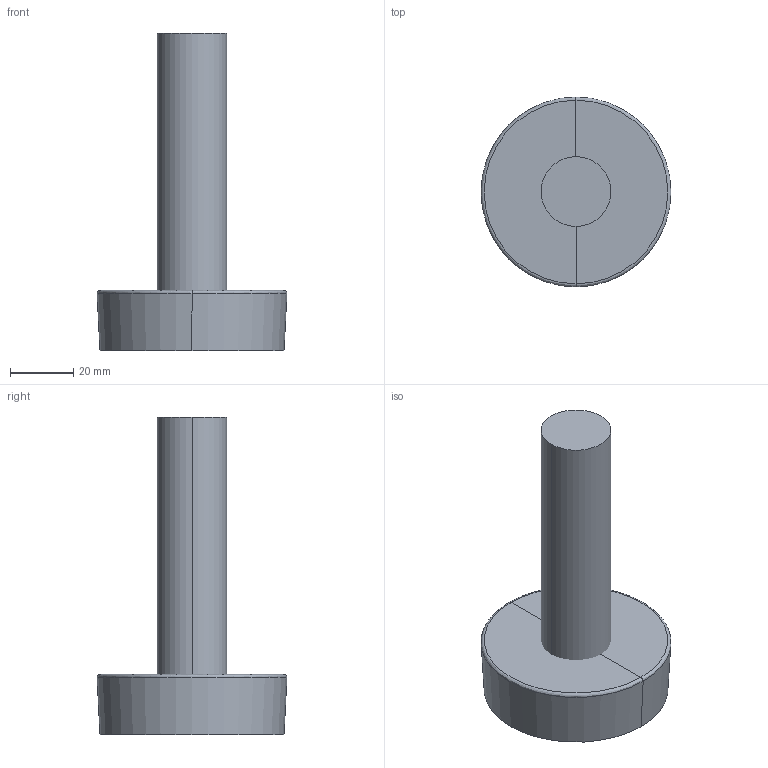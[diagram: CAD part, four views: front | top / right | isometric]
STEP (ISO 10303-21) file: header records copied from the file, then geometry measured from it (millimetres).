
FILE_DESCRIPTION(('FreeCAD Model'),'2;1');
FILE_NAME('Open CASCADE Shape Model','2024-08-10T23:31:44',('Author'),( ''),'Open CASCADE STEP processor 7.6','FreeCAD','Unknown');
FILE_SCHEMA(('AUTOMOTIVE_DESIGN { 1 0 10303 214 1 1 1 1 }'));
Length unit declared in the file: millimetre
Products named in the file (3): TopLevelAssembly; Wyciąganie001; Obrót profilu
Assembly tree (2 placements, depth 2):
  TopLevelAssembly
    Wyciąganie001
    Obrót profilu
Bounding box: 59.89 x 59.89 x 100 mm (x, y, z)
Volume: 89913.1 mm3; surface area: 16575.7 mm2
Topology: 2 solids, 2 shells, 12 faces, 18 edges, 10 vertices
Faces by surface type: plane 6, bspline 4, cylinder 2
Entity records: 382 total; most frequent: CARTESIAN_POINT 109, DIRECTION 52, ORIENTED_EDGE 36, AXIS2_PLACEMENT_3D 23, EDGE_CURVE 18, ADVANCED_FACE 12, FACE_BOUND 12, EDGE_LOOP 12
